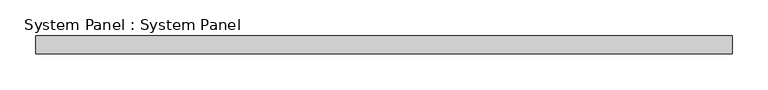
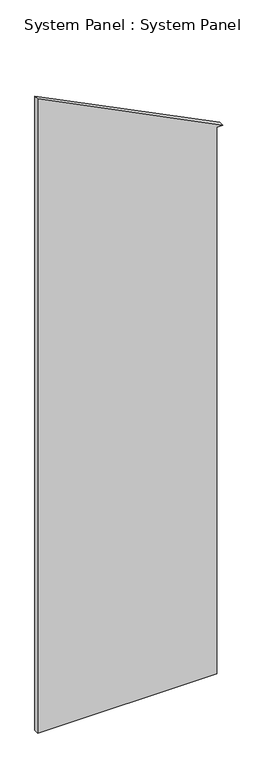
"""IFC4 building model written with IfcOpenShell, lengths in millimetres: plate geometry, System Panel : System Panel."""

from ifc_helpers import new_model, si_unit, frame, origin, place, context, project, spatial, polyline, outline, extrude, source, transform, mapped, element, save


def system_panel_system_panel_5f75f87e(model_context):
    return source(origin(), model_context, "Body", "SweptSolid", [
        extrude(outline(polyline([(0.0, 457.99375), (3060.7, 457.99375), (3060.7, 489.74375), (3550.44375, -489.74375), (0.0, -489.74375), (0.0, 457.99375)])), frame((0.0, 19.05, 0.0), z_axis=(0.0, 1.0, 0.0), x_axis=(0.0, 0.0, 1.0)), (0.0, 0.0, 1.0), 25.4),
    ])


if __name__ == "__main__":
    model = new_model("IFC4")
    model_context = context("Model", 3, world=origin())
    ifc_project = project(units=[si_unit("LENGTHUNIT", "METRE", prefix="MILLI")], contexts=[model_context])
    site = spatial("IfcSite", under=ifc_project)
    building = spatial("IfcBuilding", under=site)
    placement = place(None, origin())
    system_panel_system_panel_shape = system_panel_system_panel_5f75f87e(model_context)
    element("IfcPlate", 1, ObjectType="System Panel : System Panel", at=placement, inside=building, context=model_context, shape_type="MappedRepresentation", body=[
        mapped(system_panel_system_panel_shape, transform((0.0, 0.0, 0.0), x_axis=(1.0, 0.0, 0.0), y_axis=(0.0, 1.0, 0.0), z_axis=(0.0, 0.0, 1.0))),
    ])
    save(model, "model.ifc")
